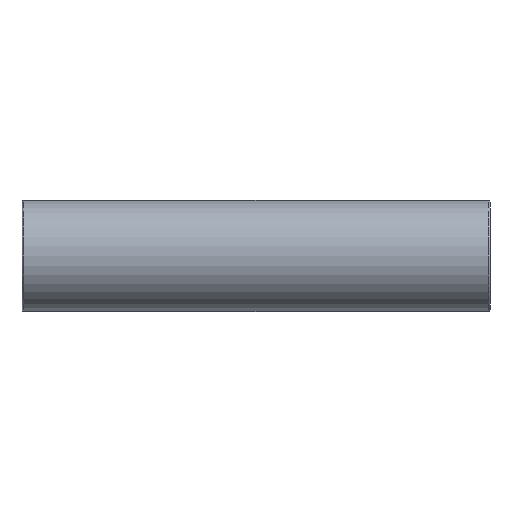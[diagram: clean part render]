
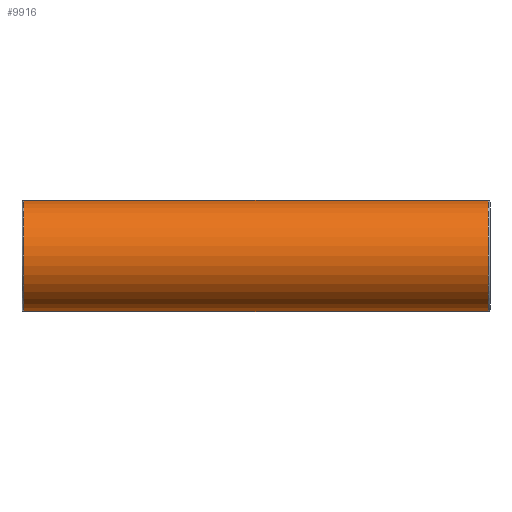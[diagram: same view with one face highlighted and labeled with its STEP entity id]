
A CAD part, left-side view. The second image highlights one B-rep face of the part: STEP entity #9916.
In plain terms, the highlighted cylindrical face has radius 8.9 mm (diameter 17.8 mm), a partial arc.
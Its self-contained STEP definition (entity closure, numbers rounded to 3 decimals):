
#683 = CYLINDRICAL_SURFACE ( 'NONE', #19807, 8.9 ) ;
#1305 = VERTEX_POINT ( 'NONE', #7213 ) ;
#1511 = LINE ( 'NONE', #3378, #13046 ) ;
#3378 = CARTESIAN_POINT ( 'NONE',  ( -21.758, 26.808, -8.9 ) ) ;
#3757 = FACE_OUTER_BOUND ( 'NONE', #14610, .T. ) ;
#3976 = CARTESIAN_POINT ( 'NONE',  ( -21.758, 26.808, 0. ) ) ;
#4277 = EDGE_CURVE ( 'NONE', #7805, #1305, #18553, .T. ) ;
#4662 = CARTESIAN_POINT ( 'NONE',  ( -21.758, -47.892, -8.9 ) ) ;
#5268 = EDGE_CURVE ( 'NONE', #7805, #8851, #16332, .T. ) ;
#6519 = DIRECTION ( 'NONE',  ( 0., -1., 0. ) ) ;
#6599 = CARTESIAN_POINT ( 'NONE',  ( -21.758, -47.892, 0. ) ) ;
#6939 = AXIS2_PLACEMENT_3D ( 'NONE', #11562, #9930, #16575 ) ;
#6987 = DIRECTION ( 'NONE',  ( 0., -1., 0. ) ) ;
#7142 = CIRCLE ( 'NONE', #15148, 8.9 ) ;
#7213 = CARTESIAN_POINT ( 'NONE',  ( -21.758, -47.892, 8.9 ) ) ;
#7336 = DIRECTION ( 'NONE',  ( 0., -1., 0. ) ) ;
#7805 = VERTEX_POINT ( 'NONE', #17740 ) ;
#7824 = ORIENTED_EDGE ( 'NONE', *, *, #10572, .T. ) ;
#8851 = VERTEX_POINT ( 'NONE', #18806 ) ;
#9874 = ORIENTED_EDGE ( 'NONE', *, *, #4277, .F. ) ;
#9916 = ADVANCED_FACE ( 'NONE', ( #3757 ), #683, .T. ) ;
#9930 = DIRECTION ( 'NONE',  ( 0., -1., 0. ) ) ;
#10572 = EDGE_CURVE ( 'NONE', #8851, #12181, #1511, .T. ) ;
#10977 = EDGE_CURVE ( 'NONE', #12181, #1305, #7142, .T. ) ;
#11562 = CARTESIAN_POINT ( 'NONE',  ( -21.758, 26.508, 0. ) ) ;
#12181 = VERTEX_POINT ( 'NONE', #4662 ) ;
#13046 = VECTOR ( 'NONE', #6519, 1000. ) ;
#14610 = EDGE_LOOP ( 'NONE', ( #9874, #17135, #7824, #20849 ) ) ;
#15148 = AXIS2_PLACEMENT_3D ( 'NONE', #6599, #18382, #16727 ) ;
#15665 = CARTESIAN_POINT ( 'NONE',  ( -21.758, 26.808, 8.9 ) ) ;
#16332 = CIRCLE ( 'NONE', #6939, 8.9 ) ;
#16575 = DIRECTION ( 'NONE',  ( 0., 0., 1. ) ) ;
#16727 = DIRECTION ( 'NONE',  ( 0., 0., 1. ) ) ;
#17135 = ORIENTED_EDGE ( 'NONE', *, *, #5268, .T. ) ;
#17740 = CARTESIAN_POINT ( 'NONE',  ( -21.758, 26.508, 8.9 ) ) ;
#18382 = DIRECTION ( 'NONE',  ( 0., 1., 0. ) ) ;
#18553 = LINE ( 'NONE', #15665, #20176 ) ;
#18787 = DIRECTION ( 'NONE',  ( 0., 0., -1. ) ) ;
#18806 = CARTESIAN_POINT ( 'NONE',  ( -21.758, 26.508, -8.9 ) ) ;
#19807 = AXIS2_PLACEMENT_3D ( 'NONE', #3976, #7336, #18787 ) ;
#20176 = VECTOR ( 'NONE', #6987, 1000. ) ;
#20849 = ORIENTED_EDGE ( 'NONE', *, *, #10977, .T. ) ;
